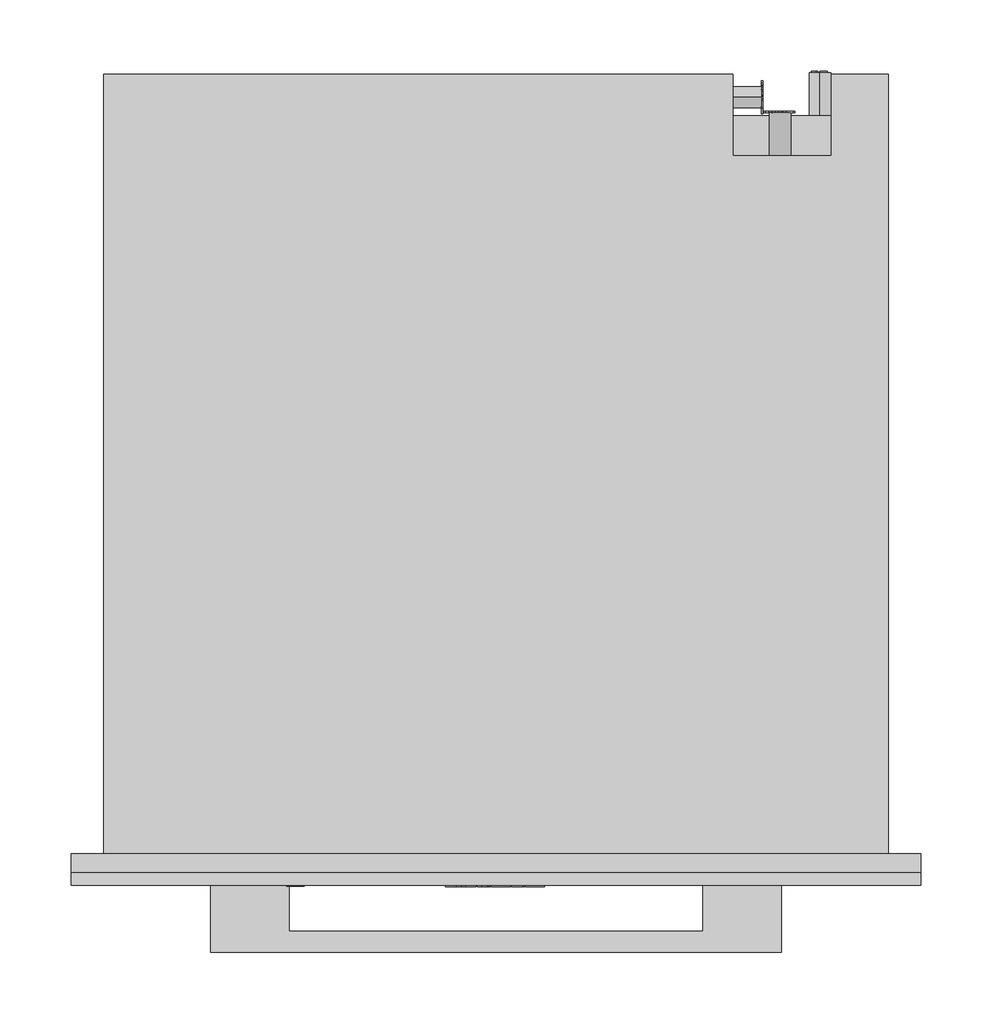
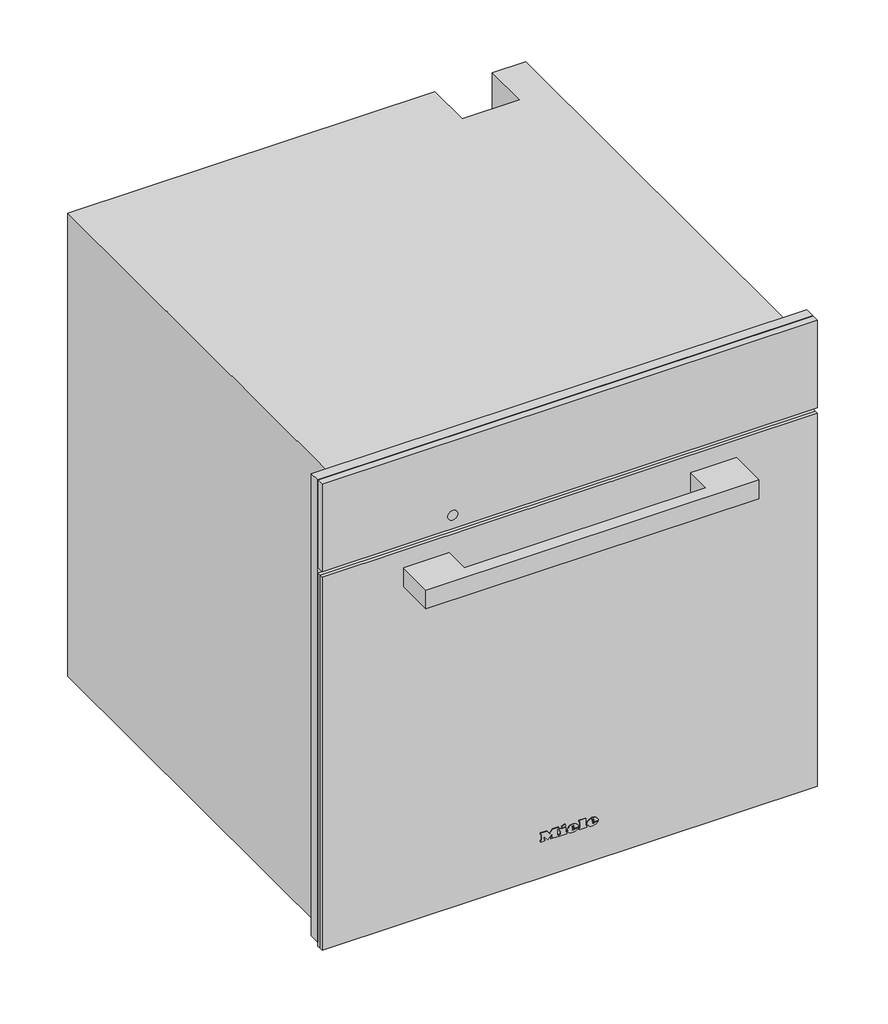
# Not in any storey: 1 proxy.
"""IFC4 building model written with IfcOpenShell, lengths in millimetres."""

import ifcopenshell
import ifcopenshell.guid

model = None  # the IFC model being written
_history = None  # IfcOwnerHistory: only IFC2X3 demands one
_inside = {}  # id of a spatial element -> (the spatial element, [elements in it])
_under = {}  # id of a project, library or spatial element -> (it, [spatial elements below it])
_declared = {}  # id of a project -> (the project, [libraries it declares])
_typed = {}  # id of a type object -> (the type object, [elements of that type])
_made_of = {}  # id of a material, layer set ... -> (it, [elements and type objects made of it])


def new_model(schema):
    """Start an empty IFC model of exactly this schema.

    Asked for "IFC4X3", IfcOpenShell would pick the latest addendum, in which some entities
    have other attributes; the version numbers below select the first issue.
    IFC2X3 requires an IfcOwnerHistory on every rooted entity: one is made here for all.
    """
    global model, _history
    if schema == "IFC4X3":
        model = ifcopenshell.file(schema_version=(4, 3, 0, 0))
    else:
        model = ifcopenshell.file(schema=schema)
    _inside.clear()
    _under.clear()
    _declared.clear()
    _typed.clear()
    _made_of.clear()
    _history = None
    if model.schema == "IFC2X3":
        org = make("IfcOrganization", Name="unknown")
        user = make(
            "IfcPersonAndOrganization",
            ThePerson=make("IfcPerson", FamilyName="unknown"),
            TheOrganization=org,
        )
        app = make(
            "IfcApplication",
            ApplicationDeveloper=org,
            Version="unknown",
            ApplicationFullName="unknown",
            ApplicationIdentifier="unknown",
        )
        _history = make(
            "IfcOwnerHistory",
            OwningUser=user,
            OwningApplication=app,
            ChangeAction="ADDED",
            CreationDate=0,
        )
    return model


def make(cls, **values):
    """One entity of the class cls with the attributes given. An attribute that is None is left unset."""
    return model.create_entity(
        cls, **{name: value for name, value in values.items() if value is not None}
    )


def rooted(cls, **values):
    """An entity with a GlobalId (a new one), such as an element, a storey or a relation."""
    return make(cls, GlobalId=ifcopenshell.guid.new(), OwnerHistory=_history, **values)


def si_unit(unit_type, name, prefix=None):
    """IfcSIUnit, for example si_unit("LENGTHUNIT", "METRE", prefix="MILLI")."""
    return make("IfcSIUnit", UnitType=unit_type, Prefix=prefix, Name=name)


def assignment(units):
    """IfcUnitAssignment: the units of a project."""
    return None if units is None else make("IfcUnitAssignment", Units=units)


def point(xyz):
    """IfcCartesianPoint."""
    return None if xyz is None else make("IfcCartesianPoint", Coordinates=xyz)


def direction(xyz):
    """IfcDirection."""
    return None if xyz is None else make("IfcDirection", DirectionRatios=xyz)


def frame(location, z_axis=None, x_axis=None):
    """IfcAxis2Placement3D, a coordinate frame: its origin and axes. An axis left out is left unset."""
    return make(
        "IfcAxis2Placement3D",
        Location=point(location),
        Axis=direction(z_axis),
        RefDirection=direction(x_axis),
    )


def frame_2d(location, x_axis=None):
    """IfcAxis2Placement2D, a coordinate frame in the plane: its origin and x axis."""
    return make(
        "IfcAxis2Placement2D", Location=point(location), RefDirection=direction(x_axis)
    )


def origin():
    """The frame at (0, 0, 0) with its axes left unset."""
    return frame((0.0, 0.0, 0.0))


def place(relative_to, where):
    """IfcLocalPlacement: puts the frame where relative to a parent placement (None: the world)."""
    return make(
        "IfcLocalPlacement", PlacementRelTo=relative_to, RelativePlacement=where
    )


def context(
    kind, dimensions, precision=None, world=None, true_north=None, identifier=None
):
    """IfcGeometricRepresentationContext, for example the 3D "Model" context."""
    return make(
        "IfcGeometricRepresentationContext",
        ContextIdentifier=identifier,
        ContextType=kind,
        CoordinateSpaceDimension=dimensions,
        Precision=precision,
        WorldCoordinateSystem=world,
        TrueNorth=true_north,
    )


def project(units=None, contexts=None):
    """IfcProject with its units and contexts."""
    return rooted(
        "IfcProject",
        Name="project",
        RepresentationContexts=contexts,
        UnitsInContext=assignment(units),
    )


def spatial(cls, under=None, at=None, **own):
    """A site, building, storey or space (cls), placed at a placement, below another one or the project."""
    s = rooted(cls, ObjectPlacement=at, **own)
    if under is not None:
        _under.setdefault(under.id(), (under, []))[1].append(s)
    return s


def polyline(points):
    """IfcPolyline through the points."""
    return make("IfcPolyline", Points=[point(p) for p in points])


def circle_curve(where, radius):
    """IfcCircle in the frame where."""
    return make("IfcCircle", Position=where, Radius=radius)


def ellipse_curve(where, semi_axis1, semi_axis2):
    """IfcEllipse in the frame where."""
    return make(
        "IfcEllipse", Position=where, SemiAxis1=semi_axis1, SemiAxis2=semi_axis2
    )


def trimmed(basis, trim1, trim2, sense, master):
    """IfcTrimmedCurve: the piece of a basis curve between two trims."""
    return make(
        "IfcTrimmedCurve",
        BasisCurve=basis,
        Trim1=trim1,
        Trim2=trim2,
        SenseAgreement=sense,
        MasterRepresentation=master,
    )


def segment(curve, same_sense, transition):
    """IfcCompositeCurveSegment."""
    return make(
        "IfcCompositeCurveSegment",
        Transition=transition,
        SameSense=same_sense,
        ParentCurve=curve,
    )


def composite_curve(segments, self_intersect=None):
    """IfcCompositeCurve: segments joined end to end."""
    return make("IfcCompositeCurve", Segments=segments, SelfIntersect=self_intersect)


def outline(outer, holes=None, kind="AREA"):
    """IfcArbitraryClosedProfileDef: a profile drawn as a closed curve; with holes, ...WithVoids."""
    if holes is None:
        return make("IfcArbitraryClosedProfileDef", ProfileType=kind, OuterCurve=outer)
    return make(
        "IfcArbitraryProfileDefWithVoids",
        ProfileType=kind,
        OuterCurve=outer,
        InnerCurves=holes,
    )


def extrude(swept, where, along, depth):
    """IfcExtrudedAreaSolid: the profile swept, set in the frame where, extruded along a direction by depth."""
    return make(
        "IfcExtrudedAreaSolid",
        SweptArea=swept,
        Position=where,
        ExtrudedDirection=direction(along),
        Depth=depth,
    )


def faces_of(points, faces, orient=None, outer=None):
    """IfcFace entities. A face is a list of loops; a loop is a list of indices into points, from 0.

    orient and outer hold one flag for each loop. By default every Orientation is true, the
    first loop of a face is its IfcFaceOuterBound and the others are IfcFaceBound.
    """
    made = []
    for i, loops in enumerate(faces):
        bounds = []
        for j, loop in enumerate(loops):
            is_outer = j == 0 if outer is None else outer[i][j]
            bounds.append(
                make(
                    "IfcFaceOuterBound" if is_outer else "IfcFaceBound",
                    Bound=make("IfcPolyLoop", Polygon=[points[k] for k in loop]),
                    Orientation=True if orient is None else orient[i][j],
                )
            )
        made.append(make("IfcFace", Bounds=bounds))
    return made


def faceted_brep(points, faces, orient=None, outer=None, voids=None):
    """IfcFacetedBrep: a solid bounded by flat faces; with voids (closed shells), ...WithVoids."""
    shared = [point(p) for p in points]
    hull = make("IfcClosedShell", CfsFaces=faces_of(shared, faces, orient, outer))
    if voids is None:
        return make("IfcFacetedBrep", Outer=hull)
    return make(
        "IfcFacetedBrepWithVoids",
        Outer=hull,
        Voids=[
            make(cls, CfsFaces=faces_of(shared, fs, o, b)) for cls, fs, o, b in voids
        ],
    )


def shape(context_of_items, identifier, shape_type, items):
    """IfcShapeRepresentation: the items that make up one representation, for example the "Body"."""
    return make(
        "IfcShapeRepresentation",
        ContextOfItems=context_of_items,
        RepresentationIdentifier=identifier,
        RepresentationType=shape_type,
        Items=items,
    )


def source(mapping_origin, context_of_items, identifier, shape_type, items):
    """IfcRepresentationMap: a shape defined once, which mapped items show again and again."""
    return make(
        "IfcRepresentationMap",
        MappingOrigin=mapping_origin,
        MappedRepresentation=shape(context_of_items, identifier, shape_type, items),
    )


def transform(
    local_origin,
    x_axis=None,
    y_axis=None,
    z_axis=None,
    scale=None,
    scale2=None,
    scale3=None,
    uniform=True,
):
    """IfcCartesianTransformationOperator3D, or its non-uniform kind. x_axis, y_axis, z_axis: its Axis1, 2, 3."""
    if uniform:
        return make(
            "IfcCartesianTransformationOperator3D",
            Axis1=direction(x_axis),
            Axis2=direction(y_axis),
            LocalOrigin=point(local_origin),
            Scale=scale,
            Axis3=direction(z_axis),
        )
    return make(
        "IfcCartesianTransformationOperator3DnonUniform",
        Axis1=direction(x_axis),
        Axis2=direction(y_axis),
        LocalOrigin=point(local_origin),
        Scale=scale,
        Axis3=direction(z_axis),
        Scale2=scale2,
        Scale3=scale3,
    )


def mapped(mapping_source, mapping_target):
    """IfcMappedItem: shows the shape of a source again, moved by a transform."""
    return make(
        "IfcMappedItem", MappingSource=mapping_source, MappingTarget=mapping_target
    )


def made_of(thing, what):
    """Note that an element or type object is made of a material, layer set ...; save() writes the relation."""
    if what is not None:
        _made_of.setdefault(what.id(), (what, []))[1].append(thing)
    return thing


def element(
    cls,
    number,
    at=None,
    inside=None,
    cuts=None,
    type_object=None,
    material=None,
    context=None,
    identifier="Body",
    shape_type=None,
    held_by="IfcProductDefinitionShape",
    body=None,
    shapes=None,
    **own,
):
    """One element of the class cls, such as IfcWall. Its Tag is "e" and its number.

    at: its placement. inside: the storey or other place that contains it. cuts: it is an
    opening in that element (IfcRelVoidsElement). A single representation is given by context,
    identifier, shape_type and body (its items); several are given by shapes. held_by: the class
    of the entity that holds the representations. save() writes the other relations.
    """
    e = rooted(cls, Tag="e%d" % number, ObjectPlacement=at, **own)
    if body is not None:
        shapes = [shape(context, identifier, shape_type, body)]
    if shapes is not None:
        e.Representation = make(held_by, Representations=shapes)
    if inside is not None:
        _inside.setdefault(inside.id(), (inside, []))[1].append(e)
    if cuts is not None:
        rooted(
            "IfcRelVoidsElement", RelatingBuildingElement=cuts, RelatedOpeningElement=e
        )
    if type_object is not None:
        _typed.setdefault(type_object.id(), (type_object, []))[1].append(e)
    return made_of(e, material)


def aggregate(whole, parts):
    """IfcRelAggregates: a whole, such as a stair, and the parts it consists of."""
    return rooted("IfcRelAggregates", RelatingObject=whole, RelatedObjects=parts)


def save(model, path):
    """Write the relations noted so far, then the file.

    IfcRelAggregates (storeys below a building ...), IfcRelContainedInSpatialStructure (elements
    in a storey), IfcRelDefinesByType, IfcRelAssociatesMaterial and IfcRelDeclares: one each for
    every whole, place, type object, material and project.
    """
    for whole, parts in _under.values():
        aggregate(whole, parts)
    for where, things in _inside.values():
        rooted(
            "IfcRelContainedInSpatialStructure",
            RelatedElements=things,
            RelatingStructure=where,
        )
    for kind, things in _typed.values():
        rooted("IfcRelDefinesByType", RelatedObjects=things, RelatingType=kind)
    for what, things in _made_of.values():
        rooted("IfcRelAssociatesMaterial", RelatedObjects=things, RelatingMaterial=what)
    for by, libraries in _declared.values():
        rooted("IfcRelDeclares", RelatingContext=by, RelatedDefinitions=libraries)
    model.write(path)


def plane_surface(at):
    """IfcPlane: the flat surface through the origin of the frame at, square to its z axis."""
    return make("IfcPlane", Position=at)


def cylinder_surface(at, radius):
    """IfcCylindricalSurface: all points at the distance radius from the z axis of the frame at."""
    return make("IfcCylindricalSurface", Position=at, Radius=radius)


def revolved_surface(curve, axis_point, axis_direction):
    """IfcSurfaceOfRevolution: the curve turned about the line through axis_point along axis_direction."""
    return make(
        "IfcSurfaceOfRevolution",
        SweptCurve=make("IfcArbitraryOpenProfileDef", ProfileType="CURVE", Curve=curve),
        AxisPosition=make("IfcAxis1Placement", Location=point(axis_point), Axis=direction(axis_direction)),
    )


def extruded_surface(curve, direction_of_extrusion, depth):
    """IfcSurfaceOfLinearExtrusion: the curve pushed along a direction by depth."""
    return make(
        "IfcSurfaceOfLinearExtrusion",
        SweptCurve=make("IfcArbitraryOpenProfileDef", ProfileType="CURVE", Curve=curve),
        ExtrudedDirection=direction(direction_of_extrusion),
        Depth=depth,
    )


def advanced_brep(points, edges, surfaces, faces):
    """IfcAdvancedBrep: a solid bounded by faces that lie on surfaces and meet in shared edges.

    An edge is (start, end): straight between two places in points (the first is 0);
    or (start, end, curve); or (start, end, curve, False) where it runs against its curve.
    A face is (place in surfaces, loops), or (place, loops, False) where it looks against
    its surface's normal. A loop lists edges by number (the first is 1), with a minus sign
    where the edge is run from its end to its start. The first loop is the outer one.
    """
    corners = [point(p) for p in points]
    vertices = [make("IfcVertexPoint", VertexGeometry=c) for c in corners]
    made = []
    for start, end, *more in edges:
        made.append(
            make(
                "IfcEdgeCurve",
                EdgeStart=vertices[start],
                EdgeEnd=vertices[end],
                EdgeGeometry=more[0] if more else make("IfcPolyline", Points=[corners[start], corners[end]]),
                SameSense=more[1] if len(more) > 1 else True,
            )
        )
    hull = []
    for where, loops, *sense in faces:
        bounds = []
        for j, loop in enumerate(loops):
            ring = [make("IfcOrientedEdge", EdgeElement=made[abs(k) - 1], Orientation=k > 0) for k in loop]
            bounds.append(
                make(
                    "IfcFaceOuterBound" if j == 0 else "IfcFaceBound",
                    Bound=make("IfcEdgeLoop", EdgeList=ring),
                    Orientation=True,
                )
            )
        hull.append(make("IfcAdvancedFace", Bounds=bounds, FaceSurface=surfaces[where], SameSense=sense[0] if sense else True))
    return make("IfcAdvancedBrep", Outer=make("IfcClosedShell", CfsFaces=hull))


def specialty_equipment_4556620d(model_context):
    return source(origin(), model_context, "Body", "SolidModel", [
        extrude(outline(polyline([(596.0, 297.5), (596.0, -297.5), (9.0, -297.5), (9.0, 297.5), (596.0, 297.5)]), holes=[polyline([(485.0, -272.5), (485.0, 272.5), (27.0, 272.5), (27.0, -272.5), (485.0, -272.5)])]), frame((0.0, -13.0, 0.0), z_axis=(0.0, 1.0, 0.0), x_axis=(0.0, 0.0, 1.0)), (0.0, 0.0, 1.0), 13.0),
        extrude(outline(polyline([(523.0, 196.9217896), (523.0, 198.4267862), (533.0435673, 201.1942402), (533.0435673, 199.9014806), (524.4295103, 197.7797951), (533.0470645, 195.3087512), (533.0470645, 193.4373937), (524.4121052, 190.9191482), (533.0472266, 188.8443938), (533.0472266, 187.5376524), (523.0, 190.2769667), (523.0, 191.6257455), (531.8347238, 194.3884733), (523.0, 196.9217896)])), frame((0.0, 519.0, 0.0), z_axis=(0.0, 1.0, 0.0), x_axis=(0.0, 0.0, 1.0)), (0.0, 0.0, 1.0), 1.0),
        extrude(outline(polyline([(533.0468463, 209.521488), (533.0468463, 208.2566067), (528.129594, 208.2566067), (533.0474898, 203.1074328), (533.0474898, 201.3597489), (528.9313111, 205.6695027), (523.0, 201.1858157), (523.0, 202.7358731), (528.0700777, 206.5685235), (526.4282746, 208.2823622), (523.0, 208.2823622), (523.0, 209.521488), (533.0468463, 209.521488)])), frame((0.0, 519.0, 0.0), z_axis=(0.0, 1.0, 0.0), x_axis=(0.0, 0.0, 1.0)), (0.0, 0.0, 1.0), 1.0),
        extrude(outline(polyline([(518.3136153, 20.0), (522.323529, 30.045631), (523.3928394, 30.045631), (527.4027531, 20.0), (526.0759254, 20.0), (524.925681, 23.1392597), (520.7882348, 23.1392597), (519.640443, 20.0), (518.3136153, 20.0)]), holes=[polyline([(521.2493136, 24.3949636), (524.4670548, 24.3949636), (523.5620651, 26.864678), (522.8581842, 28.7899271), (522.2327848, 27.0805021), (521.2493136, 24.3949636)])]), frame((186.0, 0.0, 0.0), z_axis=(1.0, 0.0, 0.0), x_axis=(0.0, 1.0, 0.0)), (0.0, 0.0, 1.0), 1.0),
        extrude(outline(polyline([(530.5420128, 20.0), (527.8025182, 30.045631), (529.0974628, 30.045631), (530.6867131, 23.4433755), (531.1772224, 21.4053092), (531.7020674, 23.207931), (533.6935352, 30.045631), (535.5599232, 30.045631), (537.0069257, 25.0890343), (538.0835937, 21.4053092), (538.5593878, 23.3845144), (540.1633533, 30.045631), (541.4582979, 30.045631), (538.7163507, 20.0), (537.3748077, 20.0), (534.9664069, 27.7500474), (534.630408, 28.8316204), (534.2527159, 27.5293182), (532.0576866, 20.0), (530.5420128, 20.0)])), frame((186.0, 0.0, 0.0), z_axis=(1.0, 0.0, 0.0), x_axis=(0.0, 1.0, 0.0)), (0.0, 0.0, 1.0), 1.0),
        advanced_brep(
        [(227.0, 547.0, 396.5), (227.0, 547.0, 381.5), (221.4098301, 547.0, 384.0), (225.5, 547.0, 384.0), (225.5, 547.0, 394.0), (224.4955303, 547.0, 394.0), (224.4955303, 547.0, 385.0), (221.0315043, 547.0, 385.0), (221.0315043, 547.0, 384.4582978), (232.0, 547.0, 384.0), (232.0, 547.0, 394.0), (227.0, 547.0, 394.0), (227.0, 547.0, 393.0), (231.0, 547.0, 393.0), (231.0, 547.0, 389.5), (228.0, 547.0, 389.5), (228.0, 547.0, 388.5), (231.0, 547.0, 388.5), (231.0, 547.0, 385.0), (227.0, 547.0, 385.0), (227.0, 547.0, 384.0), (227.0, 517.0, 381.5), (227.0, 517.0, 396.5), (232.0, 548.0, 394.0), (232.0, 548.0, 384.0), (227.0, 548.0, 384.0), (227.0, 548.0, 385.0), (231.0, 548.0, 385.0), (231.0, 548.0, 388.5), (228.0, 548.0, 388.5), (228.0, 548.0, 389.5), (231.0, 548.0, 389.5), (231.0, 548.0, 393.0), (227.0, 548.0, 393.0), (227.0, 548.0, 394.0), (225.5, 548.0, 384.0), (221.0315043, 548.0, 384.0), (221.0315043, 548.0, 385.0), (224.4955303, 548.0, 385.0), (224.4955303, 548.0, 394.0), (225.5, 548.0, 394.0), (221.0315043, 547.0, 384.0)],
        [
            (0, 1, circle_curve(frame((227.0, 547.0, 389.0), z_axis=(0.0, 1.0, 0.0), x_axis=(0.0, 0.0, 1.0)), 7.5)),
            (1, 2, circle_curve(frame((227.0, 547.0, 389.0), z_axis=(0.0, 1.0, 0.0), x_axis=(0.0, 0.0, 1.0)), 7.5)),
            (2, 3),
            (3, 4),
            (4, 5),
            (5, 6),
            (6, 7),
            (7, 8),
            (8, 0, circle_curve(frame((227.0, 547.0, 389.0), z_axis=(0.0, 1.0, 0.0), x_axis=(0.0, 0.0, 1.0)), 7.5)),
            (9, 10),
            (10, 11),
            (11, 12),
            (12, 13),
            (13, 14),
            (14, 15),
            (15, 16),
            (16, 17),
            (17, 18),
            (18, 19),
            (19, 20),
            (20, 9),
            (21, 22, circle_curve(frame((227.0, 517.0, 389.0), z_axis=(0.0, -1.0, 0.0), x_axis=(0.0, 0.0, 1.0)), 7.5)),
            (22, 21, circle_curve(frame((227.0, 517.0, 389.0), z_axis=(0.0, -1.0, 0.0), x_axis=(0.0, 0.0, 1.0)), 7.5)),
            (0, 22),
            (21, 1),
            (8, 2, circle_curve(frame((227.0, 547.0, 389.0), z_axis=(0.0, -1.0, 0.0), x_axis=(0.0, 0.0, 1.0)), 7.5)),
            (23, 24),
            (24, 25),
            (25, 26),
            (26, 27),
            (27, 28),
            (28, 29),
            (29, 30),
            (30, 31),
            (31, 32),
            (32, 33),
            (33, 34),
            (34, 23),
            (35, 36),
            (36, 37),
            (37, 38),
            (38, 39),
            (39, 40),
            (40, 35),
            (8, 41),
            (41, 2),
            (23, 10),
            (9, 24),
            (20, 25),
            (19, 26),
            (18, 27),
            (17, 28),
            (16, 29),
            (15, 30),
            (14, 31),
            (13, 32),
            (12, 33),
            (11, 34),
            (35, 3),
            (41, 36),
            (7, 37),
            (6, 38),
            (5, 39),
            (4, 40),
        ],
        [
            plane_surface(frame((227.0, 547.0, 396.5), z_axis=(0.0, 1.0, 0.0), x_axis=(1.0, 0.0, 0.0))),
            plane_surface(frame((227.0, 517.0, 396.5), z_axis=(0.0, -1.0, 0.0), x_axis=(-1.0, 0.0, 0.0))),
            cylinder_surface(frame((227.0, 547.0, 389.0), z_axis=(0.0, -1.0, 0.0), x_axis=(0.0, 0.0, 1.0)), 7.5),
            plane_surface(frame((232.0, 548.0, 394.0), z_axis=(0.0, 1.0, 0.0), x_axis=(0.0, 0.0, -1.0))),
            plane_surface(frame((232.0, 547.0, 394.0), z_axis=(0.0, -1.0, 0.0), x_axis=(0.0, 0.0, 1.0))),
            plane_surface(frame((232.0, 548.0, 394.0), z_axis=(1.0, 0.0, 0.0), x_axis=(0.0, -1.0, 0.0))),
            plane_surface(frame((232.0, 548.0, 384.0), z_axis=(0.0, 0.0, -1.0), x_axis=(0.0, -1.0, 0.0))),
            plane_surface(frame((227.0, 548.0, 384.0), z_axis=(-1.0, 0.0, 0.0), x_axis=(0.0, -1.0, 0.0))),
            plane_surface(frame((227.0, 548.0, 385.0), z_axis=(0.0, 0.0, 1.0), x_axis=(0.0, -1.0, 0.0))),
            plane_surface(frame((231.0, 548.0, 385.0), z_axis=(-1.0, 0.0, 0.0), x_axis=(0.0, -1.0, 0.0))),
            plane_surface(frame((231.0, 548.0, 388.5), z_axis=(0.0, 0.0, -1.0), x_axis=(0.0, -1.0, 0.0))),
            plane_surface(frame((228.0, 548.0, 388.5), z_axis=(-1.0, 0.0, 0.0), x_axis=(0.0, -1.0, 0.0))),
            plane_surface(frame((228.0, 548.0, 389.5), z_axis=(0.0, 0.0, 1.0), x_axis=(0.0, -1.0, 0.0))),
            plane_surface(frame((231.0, 548.0, 389.5), z_axis=(-1.0, 0.0, 0.0), x_axis=(0.0, -1.0, 0.0))),
            plane_surface(frame((231.0, 548.0, 393.0), z_axis=(0.0, 0.0, -1.0), x_axis=(0.0, -1.0, 0.0))),
            plane_surface(frame((227.0, 548.0, 393.0), z_axis=(-1.0, 0.0, 0.0), x_axis=(0.0, -1.0, 0.0))),
            plane_surface(frame((227.0, 548.0, 394.0), z_axis=(0.0, 0.0, 1.0), x_axis=(0.0, -1.0, 0.0))),
            plane_surface(frame((225.5, 548.0, 384.0), z_axis=(0.0, 0.0, -1.0), x_axis=(0.0, -1.0, 0.0))),
            plane_surface(frame((221.0315043, 548.0, 384.0), z_axis=(-1.0, 0.0, 0.0), x_axis=(0.0, -1.0, 0.0))),
            plane_surface(frame((221.0315043, 548.0, 385.0), z_axis=(0.0, 0.0, 1.0), x_axis=(0.0, -1.0, 0.0))),
            plane_surface(frame((224.4955303, 548.0, 385.0), z_axis=(-1.0, 0.0, 0.0), x_axis=(0.0, -1.0, 0.0))),
            plane_surface(frame((224.4955303, 548.0, 394.0), z_axis=(0.0, 0.0, 1.0), x_axis=(0.0, -1.0, 0.0))),
            plane_surface(frame((225.5, 548.0, 394.0), z_axis=(1.0, 0.0, 0.0), x_axis=(0.0, -1.0, 0.0))),
        ],
        [
            (0, [[1, 2, 3, 4, 5, 6, 7, 8, 9], [10, 11, 12, 13, 14, 15, 16, 17, 18, 19, 20, 21]]),
            (1, [[22, 23]]),
            (2, [[-1, 24, -22, 25]]),
            (2, [[-23, -24, -9, 26, -2, -25]]),
            (3, [[27, 28, 29, 30, 31, 32, 33, 34, 35, 36, 37, 38]]),
            (3, [[39, 40, 41, 42, 43, 44]]),
            (4, [[45, 46, -26]]),
            (5, [[-27, 47, -10, 48]]),
            (6, [[-28, -48, -21, 49]]),
            (7, [[-29, -49, -20, 50]]),
            (8, [[-30, -50, -19, 51]]),
            (9, [[-31, -51, -18, 52]]),
            (10, [[-32, -52, -17, 53]]),
            (11, [[-33, -53, -16, 54]]),
            (12, [[-34, -54, -15, 55]]),
            (13, [[-35, -55, -14, 56]]),
            (14, [[-36, -56, -13, 57]]),
            (15, [[-37, -57, -12, 58]]),
            (16, [[-38, -58, -11, -47]]),
            (17, [[-39, 59, -3, -46, 60]]),
            (18, [[-40, -60, -45, -8, 61]]),
            (19, [[-41, -61, -7, 62]]),
            (20, [[-42, -62, -6, 63]]),
            (21, [[-43, -63, -5, 64]]),
            (22, [[-44, -64, -4, -59]]),
        ],
    ),
        extrude(outline(composite_curve([segment(trimmed(circle_curve(frame_2d((528.0, 199.0)), 7.5), [point((528.0, 206.5))], [point((528.0, 191.5))], False, "CARTESIAN"), True, "CONTINUOUS"), segment(trimmed(circle_curve(frame_2d((528.0, 199.0)), 7.5), [point((528.0, 191.5))], [point((528.0, 206.5))], False, "CARTESIAN"), True, "CONTINUOUS")], self_intersect=False)), frame((0.0, 489.0, 0.0), z_axis=(0.0, 1.0, 0.0), x_axis=(0.0, 0.0, 1.0)), (0.0, 0.0, 1.0), 30.0),
        extrude(outline(composite_curve([segment(trimmed(circle_curve(frame_2d((530.0, 25.0)), 7.5), [point((530.0, 17.5))], [point((530.0, 32.5))], False, "CARTESIAN"), True, "CONTINUOUS"), segment(trimmed(circle_curve(frame_2d((530.0, 25.0)), 7.5), [point((530.0, 32.5))], [point((530.0, 17.5))], False, "CARTESIAN"), True, "CONTINUOUS")], self_intersect=False)), frame((166.0, 0.0, 0.0), z_axis=(1.0, 0.0, 0.0), x_axis=(0.0, 1.0, 0.0)), (0.0, 0.0, 1.0), 20.0),
        faceted_brep([(-275.0, 546.0, 0.0), (-275.0, 546.0, 588.0), (166.0, 546.0, 588.0), (166.0, 546.0, 0.0), (235.0, 546.0, 588.0), (275.0, 546.0, 588.0), (275.0, 546.0, 478.0), (235.0, 546.0, 478.0), (275.0, 0.0, 588.0), (-275.0, 0.0, 588.0), (-275.0, 0.0, 0.0), (275.0, 0.0, 0.0), (-272.5, 0.0, 485.0), (272.5, 0.0, 485.0), (272.5, 0.0, 27.0), (-272.5, 0.0, 27.0), (235.0, 489.0, 588.0), (166.0, 489.0, 588.0), (166.0, 517.0, 0.0), (275.0, 517.0, 0.0), (275.0, 517.0, 478.0), (272.5, 17.0, 485.0), (-272.5, 17.0, 485.0), (-272.5, 17.0, 27.0), (272.5, 17.0, 27.0), (231.0, 17.0, 409.0), (231.0, 17.0, 61.0), (-231.0, 17.0, 61.0), (-231.0, 17.0, 409.0), (231.0, 411.0, 409.0), (-231.0, 411.0, 409.0), (-231.0, 411.0, 61.0), (231.0, 411.0, 61.0), (235.0, 489.0, 477.0), (166.0, 489.0, 477.0), (166.0, 517.0, 477.0), (235.0, 517.0, 477.0), (235.0, 517.0, 478.0)], [[[0, 1, 2, 3]], [[4, 5, 6, 7]], [[8, 9, 10, 11], [12, 13, 14, 15]], [[9, 8, 5, 4, 16, 17, 2, 1]], [[1, 0, 10, 9]], [[11, 10, 0, 3, 18, 19]], [[8, 11, 19, 20, 6, 5]], [[21, 22, 23, 24], [25, 26, 27, 28]], [[22, 21, 13, 12]], [[23, 22, 12, 15]], [[24, 23, 15, 14]], [[21, 24, 14, 13]], [[29, 30, 31, 32]], [[29, 32, 26, 25]], [[32, 31, 27, 26]], [[31, 30, 28, 27]], [[30, 29, 25, 28]], [[16, 33, 34, 17]], [[17, 34, 35, 18, 3, 2]], [[34, 33, 36, 35]], [[33, 16, 4, 7, 37, 36]], [[37, 20, 19, 18, 35, 36]], [[20, 37, 7, 6]]]),
        advanced_brep(
        [(26.2998, -23.0, 52.7018), (26.2998, -23.0, 53.8532), (33.9264, -23.0, 53.8532), (20.6568, -23.0, 53.8532), (23.7918, -23.0, 50.0), (33.7326, -23.0, 52.7018), (30.2898, -23.0, 52.7018), (27.5766, -23.0, 51.425), (26.2998, -23.0, 55.3124), (26.2998, -23.0, 56.555), (28.2492, -23.0, 56.555), (28.2492, -23.0, 55.3124), (26.2998, -22.0, 52.7018), (27.5766, -22.0, 51.425), (30.2898, -22.0, 52.7018), (33.7326, -22.0, 52.7018), (23.7918, -22.0, 50.0), (20.6568, -22.0, 53.8532), (33.9264, -22.0, 53.8532), (26.2998, -22.0, 53.8532), (26.2998, -22.0, 55.3124), (28.2492, -22.0, 55.3124), (28.2492, -22.0, 56.555), (26.2998, -22.0, 56.555)],
        [
            (0, 1),
            (1, 2),
            (2, 3, ellipse_curve(frame((27.2916, -23.0, 53.8532), z_axis=(0.0, -1.0, 0.0), x_axis=(-1.0, 0.0, 0.0)), 6.6348, 5.4834)),
            (3, 4, circle_curve(frame((25.0686622, -23.0, 54.2408), z_axis=(0.0, -1.0, 0.0), x_axis=(0.0, 0.0, -1.0)), 4.4288556)),
            (4, 5, circle_curve(frame((27.1587808, -23.0, 57.2504), z_axis=(0.0, -1.0, 0.0), x_axis=(0.0, 0.0, -1.0)), 7.9940516)),
            (5, 6),
            (6, 7, circle_curve(frame((28.1338588, -23.0, 53.762), z_axis=(0.0, 1.0, 0.0), x_axis=(0.0, 0.0, -1.0)), 2.4025208)),
            (7, 0, circle_curve(frame((27.5766, -23.0, 52.7018), z_axis=(0.0, 1.0, 0.0), x_axis=(0.0, 0.0, -1.0)), 1.2768)),
            (8, 9),
            (9, 10, circle_curve(frame((27.2745, -23.0, 56.555), z_axis=(0.0, 1.0, 0.0), x_axis=(0.0, 0.0, -1.0)), 0.9747)),
            (10, 11),
            (11, 8),
            (12, 13, circle_curve(frame((27.5766, -22.0, 52.7018), z_axis=(0.0, -1.0, 0.0), x_axis=(0.0, 0.0, -1.0)), 1.2768)),
            (13, 14, circle_curve(frame((28.1338588, -22.0, 53.762), z_axis=(0.0, -1.0, 0.0), x_axis=(0.0, 0.0, -1.0)), 2.4025208)),
            (14, 15),
            (15, 16, circle_curve(frame((27.1587808, -22.0, 57.2504), z_axis=(0.0, 1.0, 0.0), x_axis=(0.0, 0.0, -1.0)), 7.9940516)),
            (16, 17, circle_curve(frame((25.0686622, -22.0, 54.2408), z_axis=(0.0, 1.0, 0.0), x_axis=(0.0, 0.0, -1.0)), 4.4288556)),
            (17, 18, ellipse_curve(frame((27.2916, -22.0, 53.8532), z_axis=(0.0, 1.0, 0.0), x_axis=(-1.0, 0.0, 0.0)), 6.6348, 5.4834)),
            (18, 19),
            (19, 12),
            (20, 21),
            (21, 22),
            (22, 23, circle_curve(frame((27.2745, -22.0, 56.555), z_axis=(0.0, -1.0, 0.0), x_axis=(0.0, 0.0, -1.0)), 0.9747)),
            (23, 20),
            (0, 12),
            (19, 1),
            (18, 2),
            (5, 15),
            (14, 6),
            (17, 3),
            (13, 7),
            (16, 4),
            (8, 20),
            (23, 9),
            (22, 10),
            (21, 11),
        ],
        [
            plane_surface(frame((26.2998, -23.0, 53.8532), z_axis=(0.0, -1.0, 0.0), x_axis=(0.0, 0.0, 1.0))),
            plane_surface(frame((26.2998, -22.0, 53.8532), z_axis=(0.0, 1.0, 0.0), x_axis=(0.0, 0.0, -1.0))),
            plane_surface(frame((26.2998, -23.0, 52.7018), z_axis=(1.0, 0.0, 0.0), x_axis=(0.0, 1.0, 0.0))),
            plane_surface(frame((26.2998, -23.0, 53.8532), z_axis=(0.0, 0.0, -1.0), x_axis=(0.0, 1.0, 0.0))),
            plane_surface(frame((33.7326, -23.0, 52.7018), z_axis=(0.0, 0.0, 1.0), x_axis=(0.0, 1.0, 0.0))),
            extruded_surface(trimmed(ellipse_curve(frame((27.2916, -21.0, 53.8532), z_axis=(0.0, -1.0, 0.0), x_axis=(-1.0, 0.0, 0.0)), 6.6348, 5.4834), [point((33.9264, -21.0, 53.8532))], [point((20.6568, -21.0, 53.8532))], True, "CARTESIAN"), (0.0, -1.0, 0.0), 1.0),
            revolved_surface(polyline([(28.1338588, -22.0, 51.3594792), (28.1338588, -23.0, 51.3594792)]), (28.1338588, -22.0, 53.762), (0.0, 1.0, 0.0)),
            revolved_surface(polyline([(27.5766, -22.0, 51.425), (27.5766, -23.0, 51.425)]), (27.5766, -22.0, 52.7018), (0.0, 1.0, 0.0)),
            cylinder_surface(frame((25.0686622, -22.0, 54.2408), z_axis=(0.0, -1.0, 0.0), x_axis=(0.0, 0.0, -1.0)), 4.4288556),
            cylinder_surface(frame((27.1587808, -22.0, 57.2504), z_axis=(0.0, -1.0, 0.0), x_axis=(0.0, 0.0, -1.0)), 7.9940516),
            plane_surface(frame((26.2998, -23.0, 55.3124), z_axis=(1.0, 0.0, 0.0), x_axis=(0.0, 1.0, 0.0))),
            revolved_surface(polyline([(27.2745, -22.0, 55.5803), (27.2745, -23.0, 55.5803)]), (27.2745, -22.0, 56.555), (0.0, 1.0, 0.0)),
            plane_surface(frame((28.2492, -23.0, 56.555), z_axis=(-1.0, 0.0, 0.0), x_axis=(0.0, 1.0, 0.0))),
            plane_surface(frame((28.2492, -23.0, 55.3124), z_axis=(0.0, 0.0, 1.0), x_axis=(0.0, 1.0, 0.0))),
        ],
        [
            (0, [[1, 2, 3, 4, 5, 6, 7, 8], [9, 10, 11, 12]]),
            (1, [[13, 14, 15, 16, 17, 18, 19, 20], [21, 22, 23, 24]]),
            (2, [[-1, 25, -20, 26]]),
            (3, [[-2, -26, -19, 27]]),
            (4, [[-6, 28, -15, 29]]),
            (5, [[-3, -27, -18, 30]]),
            (6, [[-7, -29, -14, 31]]),
            (7, [[-8, -31, -13, -25]]),
            (8, [[-4, -30, -17, 32]]),
            (9, [[-5, -32, -16, -28]]),
            (10, [[-9, 33, -24, 34]]),
            (11, [[-10, -34, -23, 35]]),
            (12, [[-11, -35, -22, 36]]),
            (13, [[-12, -36, -21, -33]]),
        ],
    ),
        advanced_brep(
        [(2.508, -23.0, 52.7018), (2.508, -23.0, 53.8532), (10.1346, -23.0, 53.8532), (-3.135, -23.0, 53.8532), (0.0, -23.0, 50.0), (9.9408, -23.0, 52.7018), (6.498, -23.0, 52.7018), (3.7848, -23.0, 51.425), (2.508, -23.0, 55.3124), (2.508, -23.0, 56.555), (4.4574, -23.0, 56.555), (4.4574, -23.0, 55.3124), (2.508, -22.0, 52.7018), (3.7848, -22.0, 51.425), (6.498, -22.0, 52.7018), (9.9408, -22.0, 52.7018), (0.0, -22.0, 50.0), (-3.135, -22.0, 53.8532), (10.1346, -22.0, 53.8532), (2.508, -22.0, 53.8532), (2.508, -22.0, 55.3124), (4.4574, -22.0, 55.3124), (4.4574, -22.0, 56.555), (2.508, -22.0, 56.555)],
        [
            (0, 1),
            (1, 2),
            (2, 3, ellipse_curve(frame((3.4998, -23.0, 53.8532), z_axis=(0.0, -1.0, 0.0), x_axis=(-1.0, 0.0, 0.0)), 6.6348, 5.4834)),
            (3, 4, circle_curve(frame((1.2768622, -23.0, 54.2408), z_axis=(0.0, -1.0, 0.0), x_axis=(0.0, 0.0, -1.0)), 4.4288556)),
            (4, 5, circle_curve(frame((3.3669808, -23.0, 57.2504), z_axis=(0.0, -1.0, 0.0), x_axis=(0.0, 0.0, -1.0)), 7.9940516)),
            (5, 6),
            (6, 7, circle_curve(frame((4.3420588, -23.0, 53.762), z_axis=(0.0, 1.0, 0.0), x_axis=(0.0, 0.0, -1.0)), 2.4025208)),
            (7, 0, circle_curve(frame((3.7848, -23.0, 52.7018), z_axis=(0.0, 1.0, 0.0), x_axis=(0.0, 0.0, -1.0)), 1.2768)),
            (8, 9),
            (9, 10, circle_curve(frame((3.4827, -23.0, 56.555), z_axis=(0.0, 1.0, 0.0), x_axis=(0.0, 0.0, -1.0)), 0.9747)),
            (10, 11),
            (11, 8),
            (12, 13, circle_curve(frame((3.7848, -22.0, 52.7018), z_axis=(0.0, -1.0, 0.0), x_axis=(0.0, 0.0, -1.0)), 1.2768)),
            (13, 14, circle_curve(frame((4.3420588, -22.0, 53.762), z_axis=(0.0, -1.0, 0.0), x_axis=(0.0, 0.0, -1.0)), 2.4025208)),
            (14, 15),
            (15, 16, circle_curve(frame((3.3669808, -22.0, 57.2504), z_axis=(0.0, 1.0, 0.0), x_axis=(0.0, 0.0, -1.0)), 7.9940516)),
            (16, 17, circle_curve(frame((1.2768622, -22.0, 54.2408), z_axis=(0.0, 1.0, 0.0), x_axis=(0.0, 0.0, -1.0)), 4.4288556)),
            (17, 18, ellipse_curve(frame((3.4998, -22.0, 53.8532), z_axis=(0.0, 1.0, 0.0), x_axis=(-1.0, 0.0, 0.0)), 6.6348, 5.4834)),
            (18, 19),
            (19, 12),
            (20, 21),
            (21, 22),
            (22, 23, circle_curve(frame((3.4827, -22.0, 56.555), z_axis=(0.0, -1.0, 0.0), x_axis=(0.0, 0.0, -1.0)), 0.9747)),
            (23, 20),
            (0, 12),
            (19, 1),
            (18, 2),
            (5, 15),
            (14, 6),
            (17, 3),
            (13, 7),
            (16, 4),
            (8, 20),
            (23, 9),
            (22, 10),
            (21, 11),
        ],
        [
            plane_surface(frame((2.508, -23.0, 53.8532), z_axis=(0.0, -1.0, 0.0), x_axis=(0.0, 0.0, 1.0))),
            plane_surface(frame((2.508, -22.0, 53.8532), z_axis=(0.0, 1.0, 0.0), x_axis=(0.0, 0.0, -1.0))),
            plane_surface(frame((2.508, -23.0, 52.7018), z_axis=(1.0, 0.0, 0.0), x_axis=(0.0, 1.0, 0.0))),
            plane_surface(frame((2.508, -23.0, 53.8532), z_axis=(0.0, 0.0, -1.0), x_axis=(0.0, 1.0, 0.0))),
            plane_surface(frame((9.9408, -23.0, 52.7018), z_axis=(0.0, 0.0, 1.0), x_axis=(0.0, 1.0, 0.0))),
            extruded_surface(trimmed(ellipse_curve(frame((3.4998, -21.0, 53.8532), z_axis=(0.0, -1.0, 0.0), x_axis=(-1.0, 0.0, 0.0)), 6.6348, 5.4834), [point((10.1346, -21.0, 53.8532))], [point((-3.135, -21.0, 53.8532))], True, "CARTESIAN"), (0.0, -1.0, 0.0), 1.0),
            revolved_surface(polyline([(4.3420588, -22.0, 51.3594792), (4.3420588, -23.0, 51.3594792)]), (4.3420588, -22.0, 53.762), (0.0, 1.0, 0.0)),
            revolved_surface(polyline([(3.7848, -22.0, 51.425), (3.7848, -23.0, 51.425)]), (3.7848, -22.0, 52.7018), (0.0, 1.0, 0.0)),
            cylinder_surface(frame((1.2768622, -22.0, 54.2408), z_axis=(0.0, -1.0, 0.0), x_axis=(0.0, 0.0, -1.0)), 4.4288556),
            cylinder_surface(frame((3.3669808, -22.0, 57.2504), z_axis=(0.0, -1.0, 0.0), x_axis=(0.0, 0.0, -1.0)), 7.9940516),
            plane_surface(frame((2.508, -23.0, 55.3124), z_axis=(1.0, 0.0, 0.0), x_axis=(0.0, 1.0, 0.0))),
            revolved_surface(polyline([(3.4827, -22.0, 55.5803), (3.4827, -23.0, 55.5803)]), (3.4827, -22.0, 56.555), (0.0, 1.0, 0.0)),
            plane_surface(frame((4.4574, -23.0, 56.555), z_axis=(-1.0, 0.0, 0.0), x_axis=(0.0, 1.0, 0.0))),
            plane_surface(frame((4.4574, -23.0, 55.3124), z_axis=(0.0, 0.0, 1.0), x_axis=(0.0, 1.0, 0.0))),
        ],
        [
            (0, [[1, 2, 3, 4, 5, 6, 7, 8], [9, 10, 11, 12]]),
            (1, [[13, 14, 15, 16, 17, 18, 19, 20], [21, 22, 23, 24]]),
            (2, [[-1, 25, -20, 26]]),
            (3, [[-2, -26, -19, 27]]),
            (4, [[-6, 28, -15, 29]]),
            (5, [[-3, -27, -18, 30]]),
            (6, [[-7, -29, -14, 31]]),
            (7, [[-8, -31, -13, -25]]),
            (8, [[-4, -30, -17, 32]]),
            (9, [[-5, -32, -16, -28]]),
            (10, [[-9, 33, -24, 34]]),
            (11, [[-10, -34, -23, 35]]),
            (12, [[-11, -35, -22, 36]]),
            (13, [[-12, -36, -21, -33]]),
        ],
    ),
        extrude(outline(polyline([(60.7274, -9.9522), (58.8806, -9.0858), (60.6818, -5.2212), (62.5286, -6.0762), (60.7274, -9.9522)])), frame((0.0, -23.0, 0.0), z_axis=(0.0, 1.0, 0.0), x_axis=(0.0, 0.0, 1.0)), (0.0, 0.0, 1.0), 1.0),
        extrude(outline(polyline([(58.6298, -12.768), (56.5892, -12.768), (56.5892, -11.4114), (51.9152, -11.4114), (51.9152, -12.768), (50.0, -12.768), (50.0, -3.7734), (51.9152, -3.7734), (51.9152, -5.0958), (58.6298, -5.0958), (58.6298, -12.768)])), frame((0.0, -23.0, 0.0), z_axis=(0.0, 1.0, 0.0), x_axis=(0.0, 0.0, 1.0)), (0.0, 0.0, 1.0), 1.0),
        extrude(outline(polyline([(59.5418, 10.773), (59.5418, 12.141), (51.9152, 12.141), (51.9152, 10.773), (50.0, 10.773), (50.0, 20.0184), (51.9152, 20.0184), (51.9152, 18.6162), (61.4, 18.6162), (61.4, 10.773), (59.5418, 10.773)])), frame((0.0, -23.0, 0.0), z_axis=(0.0, 1.0, 0.0), x_axis=(0.0, 0.0, 1.0)), (0.0, 0.0, 1.0), 1.0),
        extrude(outline(polyline([(59.5418, -35.4882), (59.5418, -34.1088), (51.9152, -34.1088), (51.9152, -35.4882), (50.0, -35.4882), (50.0, -30.4722), (51.9152, -30.4722), (51.9152, -31.8402), (56.7429247, -31.8402), (50.0, -26.7444), (56.9402223, -21.6258), (51.9152, -21.6258), (51.9152, -23.028), (50.0, -23.028), (50.0, -13.9308), (51.9152, -13.9308), (51.9152, -15.3786), (59.5418, -15.3786), (59.5418, -13.9308), (61.4, -13.9308), (61.4, -20.8734), (57.125, -24.2022), (61.4, -27.5424), (61.4, -35.4882), (59.5418, -35.4882)])), frame((0.0, -23.0, 0.0), z_axis=(0.0, 1.0, 0.0), x_axis=(0.0, 0.0, 1.0)), (0.0, 0.0, 1.0), 1.0),
        extrude(outline(polyline([(297.5, -22.0), (-297.5, -22.0), (-297.5, -13.0), (297.5, -13.0), (297.5, -22.0)])), frame((0.0, 0.0, 485.0), z_axis=(0.0, 0.0, 1.0), x_axis=(1.0, 0.0, 0.0)), (0.0, 0.0, 1.0), 111.0),
        extrude(outline(composite_curve([segment(trimmed(circle_curve(frame_2d((502.0, -140.5745637)), 6.0), [point((502.0, -146.5745637))], [point((502.0, -134.5745637))], False, "CARTESIAN"), True, "CONTINUOUS"), segment(trimmed(circle_curve(frame_2d((502.0, -140.5745637)), 6.0), [point((502.0, -134.5745637))], [point((502.0, -146.5745637))], False, "CARTESIAN"), True, "CONTINUOUS")], self_intersect=False)), frame((0.0, -22.5, 0.0), z_axis=(0.0, 1.0, 0.0), x_axis=(0.0, 0.0, 1.0)), (0.0, 0.0, 1.0), 1.0),
        extrude(outline(polyline([(-297.5, -18.0), (297.5, -18.0), (297.5, -22.0), (-297.5, -22.0), (-297.5, -18.0)])), frame((0.0, 0.0, 4.0), z_axis=(0.0, 0.0, 1.0), x_axis=(1.0, 0.0, 0.0)), (0.0, 0.0, 1.0), 474.0),
        extrude(outline(polyline([(297.5, -18.0), (-297.5, -18.0), (-297.5, -13.0), (297.5, -13.0), (297.5, -18.0)])), frame((0.0, 0.0, 4.0), z_axis=(0.0, 0.0, 1.0), x_axis=(1.0, 0.0, 0.0)), (0.0, 0.0, 1.0), 474.0),
        extrude(outline(polyline([(-200.0, -69.0), (-200.0, -22.0), (-145.0, -22.0), (-145.0, -54.0), (145.0, -54.0), (145.0, -22.0), (200.0, -22.0), (200.0, -69.0), (-200.0, -69.0)])), frame((0.0, 0.0, 432.0), z_axis=(0.0, 0.0, 1.0), x_axis=(1.0, 0.0, 0.0)), (0.0, 0.0, 1.0), 24.0),
    ])


model = new_model("IFC4")

# Units and contexts
model_context = context("Model", 3, world=origin())
ifc_project = project(units=[si_unit("LENGTHUNIT", "METRE", prefix="MILLI")], contexts=[model_context])

# Site, building
site = spatial("IfcSite", under=ifc_project)
building = spatial("IfcBuilding", under=site)

# Proxy
placement = place(None, origin())
specialty_equipment_shape = specialty_equipment_4556620d(model_context)
element("IfcBuildingElementProxy", 1, Name="12108670_BNE_DGC7865HCPro_GRGR : 23786539_BNE_12108670_DGC7865HCPro_GRGR", ObjectType="12108670_BNE_DGC7865HCPro_GRGR : 23786539_BNE_12108670_DGC7865HCPro_GRGR", at=placement, inside=building, context=model_context, shape_type="MappedRepresentation", body=[
    mapped(specialty_equipment_shape, transform((0.0, 0.0, 0.0), x_axis=(1.0, 0.0, 0.0), y_axis=(0.0, 1.0, 0.0), z_axis=(0.0, 0.0, 1.0))),
])

save(model, "model.ifc")
